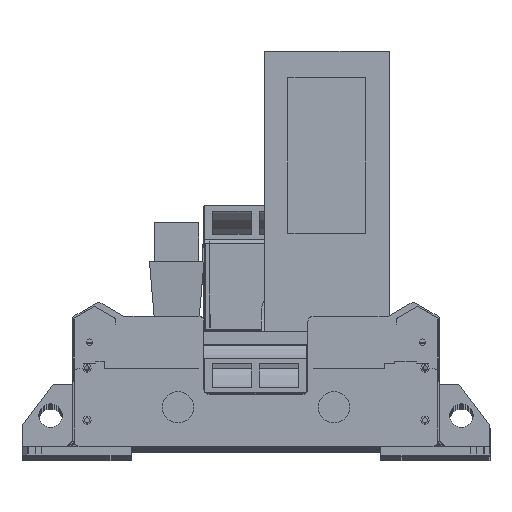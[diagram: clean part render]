
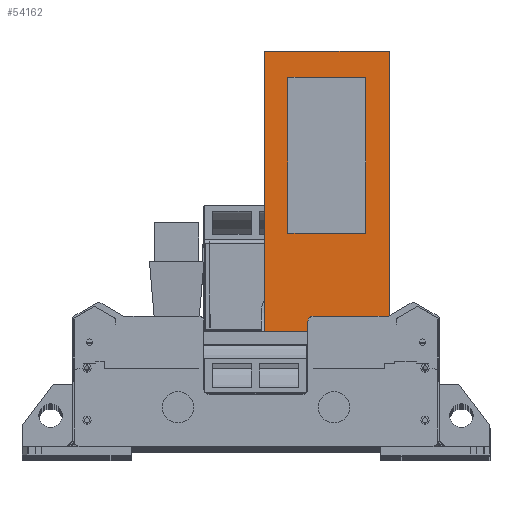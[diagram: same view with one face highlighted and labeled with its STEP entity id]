
A CAD part, top view. The second image highlights one B-rep face of the part: STEP entity #54162.
In plain terms, the highlighted planar face has unit normal (0, 0, 1).
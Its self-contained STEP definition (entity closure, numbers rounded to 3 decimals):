
#1169 = VECTOR ( 'NONE', #39611, 1000. ) ;
#1171 = ORIENTED_EDGE ( 'NONE', *, *, #53868, .F. ) ;
#1588 = LINE ( 'NONE', #20610, #1169 ) ;
#1885 = VECTOR ( 'NONE', #33140, 1000. ) ;
#2304 = ORIENTED_EDGE ( 'NONE', *, *, #12676, .F. ) ;
#3717 = EDGE_CURVE ( 'NONE', #54214, #27934, #56850, .T. ) ;
#4785 = DIRECTION ( 'NONE',  ( 0., -1., 0. ) ) ;
#5745 = CARTESIAN_POINT ( 'NONE',  ( -165.913, 682.329, 5664.5 ) ) ;
#8985 = CARTESIAN_POINT ( 'NONE',  ( -210.913, 732.329, 5664.5 ) ) ;
#9187 = CARTESIAN_POINT ( 'NONE',  ( -210.913, 732.329, 5664.5 ) ) ;
#9257 = CARTESIAN_POINT ( 'NONE',  ( -15.913, 682.329, 5664.5 ) ) ;
#9580 = ORIENTED_EDGE ( 'NONE', *, *, #28600, .T. ) ;
#11419 = VECTOR ( 'NONE', #56949, 1000. ) ;
#11534 = ORIENTED_EDGE ( 'NONE', *, *, #56131, .F. ) ;
#12676 = EDGE_CURVE ( 'NONE', #36378, #61250, #28479, .T. ) ;
#13065 = CARTESIAN_POINT ( 'NONE',  ( 29.087, 732.329, 5664.5 ) ) ;
#14149 = CARTESIAN_POINT ( 'NONE',  ( 29.087, 732.329, 5664.5 ) ) ;
#17620 = CARTESIAN_POINT ( 'NONE',  ( 29.087, 193.829, 5664.5 ) ) ;
#17746 = FACE_OUTER_BOUND ( 'NONE', #29385, .T. ) ;
#18343 = DIRECTION ( 'NONE',  ( 1., 0., 0. ) ) ;
#18518 = EDGE_CURVE ( 'NONE', #26173, #36378, #1588, .T. ) ;
#18946 = LINE ( 'NONE', #37925, #11419 ) ;
#19192 = VECTOR ( 'NONE', #28196, 1000. ) ;
#19347 = LINE ( 'NONE', #38330, #25717 ) ;
#20610 = CARTESIAN_POINT ( 'NONE',  ( -165.913, 682.329, 5664.5 ) ) ;
#21944 = LINE ( 'NONE', #40940, #23911 ) ;
#23499 = ORIENTED_EDGE ( 'NONE', *, *, #18518, .F. ) ;
#23911 = VECTOR ( 'NONE', #59962, 1000. ) ;
#25587 = ORIENTED_EDGE ( 'NONE', *, *, #3717, .F. ) ;
#25717 = VECTOR ( 'NONE', #57365, 1000. ) ;
#26173 = VERTEX_POINT ( 'NONE', #9257 ) ;
#27472 = EDGE_LOOP ( 'NONE', ( #11534, #2304, #23499, #31674 ) ) ;
#27934 = VERTEX_POINT ( 'NONE', #53143 ) ;
#28196 = DIRECTION ( 'NONE',  ( 0., -1., 0. ) ) ;
#28479 = LINE ( 'NONE', #47500, #38610 ) ;
#28600 = EDGE_CURVE ( 'NONE', #49918, #33243, #42016, .T. ) ;
#28841 = VECTOR ( 'NONE', #18343, 1000. ) ;
#29385 = EDGE_LOOP ( 'NONE', ( #30910, #9580, #1171, #25587 ) ) ;
#30910 = ORIENTED_EDGE ( 'NONE', *, *, #41819, .T. ) ;
#31674 = ORIENTED_EDGE ( 'NONE', *, *, #55636, .F. ) ;
#32068 = DIRECTION ( 'NONE',  ( 0., 0., -1. ) ) ;
#33140 = DIRECTION ( 'NONE',  ( 1., 0., 0. ) ) ;
#33243 = VERTEX_POINT ( 'NONE', #17620 ) ;
#36378 = VERTEX_POINT ( 'NONE', #5745 ) ;
#36742 = FACE_BOUND ( 'NONE', #27472, .T. ) ;
#37925 = CARTESIAN_POINT ( 'NONE',  ( -165.913, 382.329, 5664.5 ) ) ;
#38330 = CARTESIAN_POINT ( 'NONE',  ( 29.087, 732.329, 5664.5 ) ) ;
#38610 = VECTOR ( 'NONE', #4785, 1000. ) ;
#39387 = VERTEX_POINT ( 'NONE', #53940 ) ;
#39611 = DIRECTION ( 'NONE',  ( -1., 0., 0. ) ) ;
#39762 = CARTESIAN_POINT ( 'NONE',  ( -210.913, 193.829, 5664.5 ) ) ;
#40940 = CARTESIAN_POINT ( 'NONE',  ( -15.913, 682.329, 5664.5 ) ) ;
#41819 = EDGE_CURVE ( 'NONE', #54214, #49918, #51889, .T. ) ;
#42016 = LINE ( 'NONE', #61029, #28841 ) ;
#47500 = CARTESIAN_POINT ( 'NONE',  ( -165.913, 682.329, 5664.5 ) ) ;
#47630 = AXIS2_PLACEMENT_3D ( 'NONE', #13065, #32068, #51079 ) ;
#48916 = CARTESIAN_POINT ( 'NONE',  ( -165.913, 382.329, 5664.5 ) ) ;
#49918 = VERTEX_POINT ( 'NONE', #39762 ) ;
#51079 = DIRECTION ( 'NONE',  ( -1., 0., 0. ) ) ;
#51889 = LINE ( 'NONE', #9187, #19192 ) ;
#53143 = CARTESIAN_POINT ( 'NONE',  ( 29.087, 732.329, 5664.5 ) ) ;
#53868 = EDGE_CURVE ( 'NONE', #27934, #33243, #19347, .T. ) ;
#53940 = CARTESIAN_POINT ( 'NONE',  ( -15.913, 382.329, 5664.5 ) ) ;
#54162 = ADVANCED_FACE ( 'NONE', ( #17746, #36742 ), #55761, .F. ) ;
#54214 = VERTEX_POINT ( 'NONE', #8985 ) ;
#55636 = EDGE_CURVE ( 'NONE', #39387, #26173, #21944, .T. ) ;
#55761 = PLANE ( 'NONE',  #47630 ) ;
#56131 = EDGE_CURVE ( 'NONE', #61250, #39387, #18946, .T. ) ;
#56850 = LINE ( 'NONE', #14149, #1885 ) ;
#56949 = DIRECTION ( 'NONE',  ( 1., 0., 0. ) ) ;
#57365 = DIRECTION ( 'NONE',  ( 0., -1., 0. ) ) ;
#59962 = DIRECTION ( 'NONE',  ( 0., 1., 0. ) ) ;
#61029 = CARTESIAN_POINT ( 'NONE',  ( -210.913, 193.829, 5664.5 ) ) ;
#61250 = VERTEX_POINT ( 'NONE', #48916 ) ;
